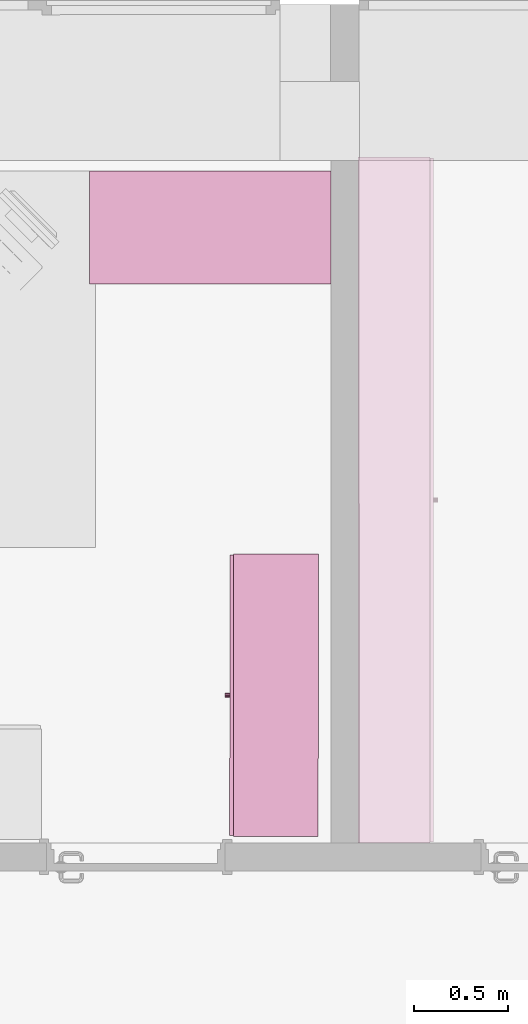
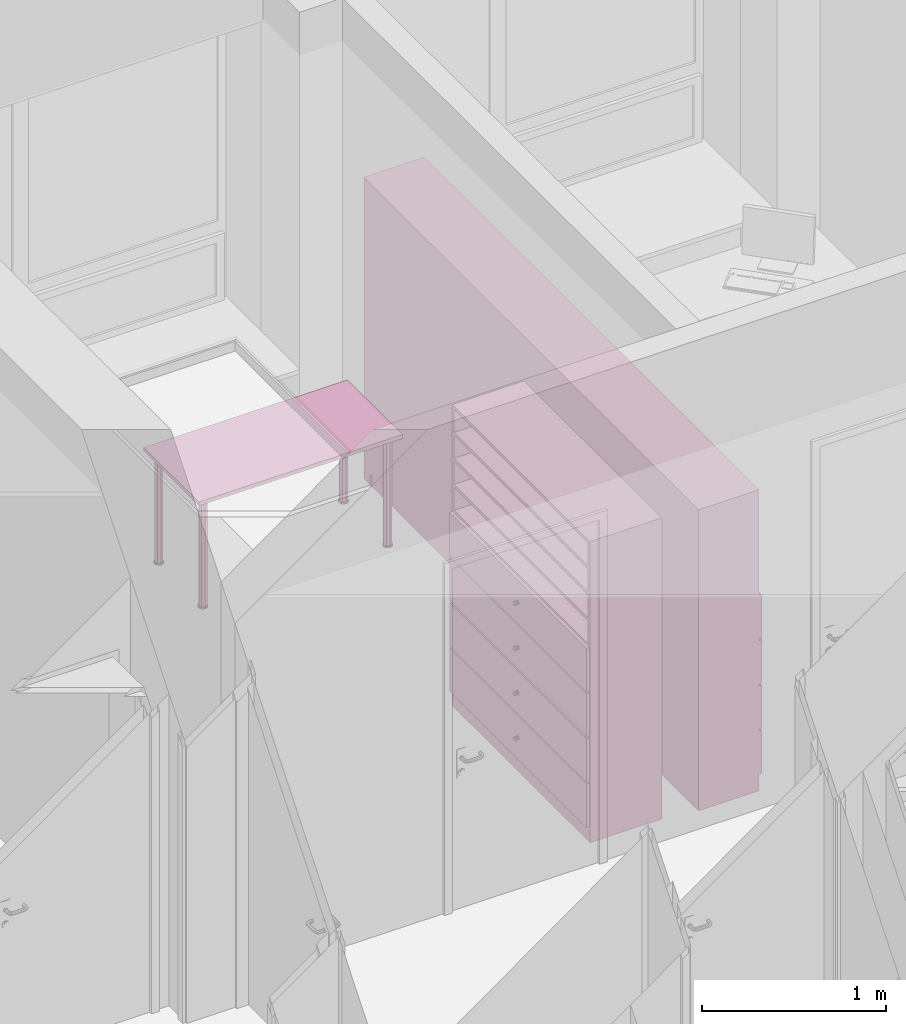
# One storey, part 180 of 194: 3 furnishings.
"""IFC2X3 building model written with IfcOpenShell, lengths in millimetres."""

from ifc_helpers import new_model, entity, si_unit, converted_unit, derived_unit, money_unit, direction, frame, origin_with_axes, place, context, subcontext, project, spatial, faceted_brep, type_object, element, save


model = new_model("IFC2X3")

# Units and contexts
model_context = context("Model", 3, precision=1e-05, world=origin_with_axes(), true_north=direction((0.0, 1.0)))
body_context = subcontext(model_context, "Body", "Model", "MODEL_VIEW")
ifc_project = project(units=[si_unit("LENGTHUNIT", "METRE", prefix="MILLI"), si_unit("AREAUNIT", "SQUARE_METRE"), si_unit("VOLUMEUNIT", "CUBIC_METRE"), converted_unit("PLANEANGLEUNIT", "DEGREE", entity("IfcPlaneAngleMeasure", 0.0174532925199), si_unit("PLANEANGLEUNIT", "RADIAN"), dimensions=[0, 0, 0, 0, 0, 0, 0]), si_unit("SOLIDANGLEUNIT", "STERADIAN"), money_unit("EUR"), converted_unit("TIMEUNIT", "Year", entity("IfcTimeMeasure", 31556926.0), si_unit("TIMEUNIT", "SECOND"), dimensions=[0, 0, 1, 0, 0, 0, 0]), si_unit("MASSUNIT", "GRAM", prefix="KILO"), si_unit("THERMODYNAMICTEMPERATUREUNIT", "DEGREE_CELSIUS"), si_unit("LUMINOUSINTENSITYUNIT", "LUMEN"), si_unit("ENERGYUNIT", "JOULE", prefix="MEGA"), derived_unit("THERMALCONDUCTANCEUNIT", [(si_unit("POWERUNIT", "WATT"), 1), (si_unit("LENGTHUNIT", "METRE"), -1), (si_unit("THERMODYNAMICTEMPERATUREUNIT", "KELVIN"), -1)]), derived_unit("SPECIFICHEATCAPACITYUNIT", [(si_unit("ENERGYUNIT", "JOULE"), 1), (si_unit("MASSUNIT", "GRAM", prefix="KILO"), -1), (si_unit("THERMODYNAMICTEMPERATUREUNIT", "KELVIN"), -1)]), derived_unit("MASSDENSITYUNIT", [(si_unit("MASSUNIT", "GRAM", prefix="KILO"), 1), (si_unit("VOLUMEUNIT", "CUBIC_METRE"), -1)])], contexts=[model_context])

# Site, building, storey
site_placement = place(None, origin_with_axes())
site = spatial("IfcSite", under=ifc_project, at=site_placement, Name="Site", CompositionType="ELEMENT")
building_placement = place(site_placement, origin_with_axes())
building = spatial("IfcBuilding", under=site, at=building_placement, Name="Building", CompositionType="ELEMENT")
storey_placement = place(building_placement, frame((0.0, 0.0, 3000.0), z_axis=(0.0, 0.0, 1.0), x_axis=(1.0, 0.0, 0.0)))
storey = spatial("IfcBuildingStorey", under=building, at=storey_placement, Name="2 KORRUS", CompositionType="ELEMENT", Elevation=3000.0)

# Furnishings
furnishing_element_type_1 = type_object("IfcFurnishingElementType", Name="Model Element 122")
furnishing_1_placement = place(storey_placement, frame((19555.0903065, 71106.4283284, 0.0), z_axis=(0.0, 0.0, 1.0), x_axis=(0.0, 1.0, 0.0)))
element("IfcFurnishingElement", 1, at=furnishing_1_placement, inside=storey, type_object=furnishing_element_type_1, Name="FU - 001", context=body_context, shape_type="Brep", body=[
    faceted_brep([(-3641.33468044, 19.0, 0.0), (-3641.33468044, 400.0, 0.0), (0.0, 400.0, 0.0), (0.0, 19.0, 0.0), (-3641.33468044, 19.0, 100.0), (-3641.33468044, 400.0, 100.0), (0.0, 400.0, 100.0), (0.0, 19.0, 100.0)], [[[0, 1, 2, 3]], [[0, 4, 5, 1]], [[1, 5, 6, 2]], [[2, 6, 7, 3]], [[3, 7, 4, 0]], [[7, 6, 5, 4]]]),
    faceted_brep([(-19.0, 400.0, 119.0), (-19.0, 400.0, 1981.0), (-19.0, 381.0, 1981.0), (-19.0, 381.0, 119.0), (-3622.33468044, 400.0, 119.0), (-3622.33468044, 400.0, 1981.0), (-3622.33468044, 381.0, 1981.0), (-3622.33468044, 381.0, 119.0)], [[[0, 1, 2, 3]], [[4, 5, 1, 0]], [[1, 5, 6, 2]], [[3, 2, 6, 7]], [[0, 3, 7, 4]], [[7, 6, 5, 4]]]),
    faceted_brep([(-3641.33468044, 19.0, 100.0), (-3641.33468044, 400.0, 100.0), (-3622.33468044, 400.0, 100.0), (-3622.33468044, 19.0, 100.0), (-3641.33468044, 19.0, 2000.0), (-3641.33468044, 400.0, 2000.0), (-3622.33468044, 400.0, 2000.0), (-3622.33468044, 19.0, 2000.0)], [[[0, 1, 2, 3]], [[0, 4, 5, 1]], [[1, 5, 6, 2]], [[2, 6, 7, 3]], [[3, 7, 4, 0]], [[7, 6, 5, 4]]]),
    faceted_brep([(-19.0, 19.0, 100.0), (-19.0, 400.0, 100.0), (0.0, 400.0, 100.0), (0.0, 19.0, 100.0), (-19.0, 19.0, 2000.0), (-19.0, 400.0, 2000.0), (0.0, 400.0, 2000.0), (0.0, 19.0, 2000.0)], [[[0, 1, 2, 3]], [[0, 4, 5, 1]], [[1, 5, 6, 2]], [[2, 6, 7, 3]], [[3, 7, 4, 0]], [[7, 6, 5, 4]]]),
    faceted_brep([(-3622.33468044, 19.0, 100.0), (-3622.33468044, 400.0, 100.0), (-19.0, 400.0, 100.0), (-19.0, 19.0, 100.0), (-3622.33468044, 19.0, 119.0), (-3622.33468044, 400.0, 119.0), (-19.0, 400.0, 119.0), (-19.0, 19.0, 119.0)], [[[0, 1, 2, 3]], [[0, 4, 5, 1]], [[1, 5, 6, 2]], [[2, 6, 7, 3]], [[3, 7, 4, 0]], [[7, 6, 5, 4]]]),
    faceted_brep([(-3622.33468044, 19.0, 1981.0), (-3622.33468044, 400.0, 1981.0), (-19.0, 400.0, 1981.0), (-19.0, 19.0, 1981.0), (-3622.33468044, 19.0, 2000.0), (-3622.33468044, 400.0, 2000.0), (-19.0, 400.0, 2000.0), (-19.0, 19.0, 2000.0)], [[[0, 1, 2, 3]], [[0, 4, 5, 1]], [[1, 5, 6, 2]], [[2, 6, 7, 3]], [[3, 7, 4, 0]], [[7, 6, 5, 4]]]),
    faceted_brep([(-5.0, 19.0, 105.0), (-5.0, 0.0, 105.0), (-3636.33468044, 0.0, 105.0), (-3636.33468044, 19.0, 105.0), (-5.0, 19.0, 395.0), (-5.0, 0.0, 395.0), (-3636.33468044, 0.0, 395.0), (-3636.33468044, 19.0, 395.0)], [[[0, 1, 2, 3]], [[4, 5, 1, 0]], [[1, 5, 6, 2]], [[3, 2, 6, 7]], [[0, 3, 7, 4]], [[7, 6, 5, 4]]]),
    faceted_brep([(-1831.05964506, 0.0, 244.0), (-1832.66734022, 0.0, 250.0), (-1831.05964506, 0.0, 256.0), (-1826.66734022, 0.0, 260.392304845), (-1820.66734022, 0.0, 262.0), (-1814.66734022, 0.0, 260.392304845), (-1810.27503537, 0.0, 256.0), (-1808.66734022, 0.0, 250.0), (-1810.27503537, 0.0, 244.0), (-1814.66734022, 0.0, 239.607695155), (-1820.66734022, 0.0, 238.0), (-1826.66734022, 0.0, 239.607695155), (-1831.05964506, -25.0, 244.0), (-1832.66734022, -25.0, 250.0), (-1831.05964506, -25.0, 256.0), (-1826.66734022, -25.0, 260.392304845), (-1820.66734022, -25.0, 262.0), (-1814.66734022, -25.0, 260.392304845), (-1810.27503537, -25.0, 256.0), (-1808.66734022, -25.0, 250.0), (-1810.27503537, -25.0, 244.0), (-1814.66734022, -25.0, 239.607695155), (-1820.66734022, -25.0, 238.0), (-1826.66734022, -25.0, 239.607695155)], [[[0, 1, 2, 3, 4, 5, 6, 7, 8, 9, 10, 11]], [[0, 12, 13, 1]], [[1, 13, 14, 2]], [[2, 14, 15, 3]], [[3, 15, 16, 4]], [[4, 16, 17, 5]], [[5, 17, 18, 6]], [[6, 18, 19, 7]], [[7, 19, 20, 8]], [[8, 20, 21, 9]], [[9, 21, 22, 10]], [[10, 22, 23, 11]], [[11, 23, 12, 0]], [[12, 23, 22, 21, 20, 19, 18, 17, 16, 15, 14, 13]]]),
    faceted_brep([(-5.0, 19.0, 405.0), (-5.0, 0.0, 405.0), (-3636.33468044, 0.0, 405.0), (-3636.33468044, 19.0, 405.0), (-5.0, 19.0, 695.0), (-5.0, 0.0, 695.0), (-3636.33468044, 0.0, 695.0), (-3636.33468044, 19.0, 695.0)], [[[0, 1, 2, 3]], [[4, 5, 1, 0]], [[1, 5, 6, 2]], [[3, 2, 6, 7]], [[0, 3, 7, 4]], [[7, 6, 5, 4]]]),
    faceted_brep([(-1831.05964506, 0.0, 544.0), (-1832.66734022, 0.0, 550.0), (-1831.05964506, 0.0, 556.0), (-1826.66734022, 0.0, 560.392304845), (-1820.66734022, 0.0, 562.0), (-1814.66734022, 0.0, 560.392304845), (-1810.27503537, 0.0, 556.0), (-1808.66734022, 0.0, 550.0), (-1810.27503537, 0.0, 544.0), (-1814.66734022, 0.0, 539.607695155), (-1820.66734022, 0.0, 538.0), (-1826.66734022, 0.0, 539.607695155), (-1831.05964506, -25.0, 544.0), (-1832.66734022, -25.0, 550.0), (-1831.05964506, -25.0, 556.0), (-1826.66734022, -25.0, 560.392304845), (-1820.66734022, -25.0, 562.0), (-1814.66734022, -25.0, 560.392304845), (-1810.27503537, -25.0, 556.0), (-1808.66734022, -25.0, 550.0), (-1810.27503537, -25.0, 544.0), (-1814.66734022, -25.0, 539.607695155), (-1820.66734022, -25.0, 538.0), (-1826.66734022, -25.0, 539.607695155)], [[[0, 1, 2, 3, 4, 5, 6, 7, 8, 9, 10, 11]], [[0, 12, 13, 1]], [[1, 13, 14, 2]], [[2, 14, 15, 3]], [[3, 15, 16, 4]], [[4, 16, 17, 5]], [[5, 17, 18, 6]], [[6, 18, 19, 7]], [[7, 19, 20, 8]], [[8, 20, 21, 9]], [[9, 21, 22, 10]], [[10, 22, 23, 11]], [[11, 23, 12, 0]], [[12, 23, 22, 21, 20, 19, 18, 17, 16, 15, 14, 13]]]),
    faceted_brep([(-5.0, 19.0, 705.0), (-5.0, 0.0, 705.0), (-3636.33468044, 0.0, 705.0), (-3636.33468044, 19.0, 705.0), (-5.0, 19.0, 995.0), (-5.0, 0.0, 995.0), (-3636.33468044, 0.0, 995.0), (-3636.33468044, 19.0, 995.0)], [[[0, 1, 2, 3]], [[4, 5, 1, 0]], [[1, 5, 6, 2]], [[3, 2, 6, 7]], [[0, 3, 7, 4]], [[7, 6, 5, 4]]]),
    faceted_brep([(-1831.05964506, 0.0, 844.0), (-1832.66734022, 0.0, 850.0), (-1831.05964506, 0.0, 856.0), (-1826.66734022, 0.0, 860.392304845), (-1820.66734022, 0.0, 862.0), (-1814.66734022, 0.0, 860.392304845), (-1810.27503537, 0.0, 856.0), (-1808.66734022, 0.0, 850.0), (-1810.27503537, 0.0, 844.0), (-1814.66734022, 0.0, 839.607695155), (-1820.66734022, 0.0, 838.0), (-1826.66734022, 0.0, 839.607695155), (-1831.05964506, -25.0, 844.0), (-1832.66734022, -25.0, 850.0), (-1831.05964506, -25.0, 856.0), (-1826.66734022, -25.0, 860.392304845), (-1820.66734022, -25.0, 862.0), (-1814.66734022, -25.0, 860.392304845), (-1810.27503537, -25.0, 856.0), (-1808.66734022, -25.0, 850.0), (-1810.27503537, -25.0, 844.0), (-1814.66734022, -25.0, 839.607695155), (-1820.66734022, -25.0, 838.0), (-1826.66734022, -25.0, 839.607695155)], [[[0, 1, 2, 3, 4, 5, 6, 7, 8, 9, 10, 11]], [[0, 12, 13, 1]], [[1, 13, 14, 2]], [[2, 14, 15, 3]], [[3, 15, 16, 4]], [[4, 16, 17, 5]], [[5, 17, 18, 6]], [[6, 18, 19, 7]], [[7, 19, 20, 8]], [[8, 20, 21, 9]], [[9, 21, 22, 10]], [[10, 22, 23, 11]], [[11, 23, 12, 0]], [[12, 23, 22, 21, 20, 19, 18, 17, 16, 15, 14, 13]]]),
    faceted_brep([(-5.0, 19.0, 1005.0), (-5.0, 0.0, 1005.0), (-3636.33468044, 0.0, 1005.0), (-3636.33468044, 19.0, 1005.0), (-5.0, 19.0, 1295.0), (-5.0, 0.0, 1295.0), (-3636.33468044, 0.0, 1295.0), (-3636.33468044, 19.0, 1295.0)], [[[0, 1, 2, 3]], [[4, 5, 1, 0]], [[1, 5, 6, 2]], [[3, 2, 6, 7]], [[0, 3, 7, 4]], [[7, 6, 5, 4]]]),
    faceted_brep([(-1831.05964506, 0.0, 1144.0), (-1832.66734022, 0.0, 1150.0), (-1831.05964506, 0.0, 1156.0), (-1826.66734022, 0.0, 1160.39230485), (-1820.66734022, 0.0, 1162.0), (-1814.66734022, 0.0, 1160.39230485), (-1810.27503537, 0.0, 1156.0), (-1808.66734022, 0.0, 1150.0), (-1810.27503537, 0.0, 1144.0), (-1814.66734022, 0.0, 1139.60769515), (-1820.66734022, 0.0, 1138.0), (-1826.66734022, 0.0, 1139.60769515), (-1831.05964506, -25.0, 1144.0), (-1832.66734022, -25.0, 1150.0), (-1831.05964506, -25.0, 1156.0), (-1826.66734022, -25.0, 1160.39230485), (-1820.66734022, -25.0, 1162.0), (-1814.66734022, -25.0, 1160.39230485), (-1810.27503537, -25.0, 1156.0), (-1808.66734022, -25.0, 1150.0), (-1810.27503537, -25.0, 1144.0), (-1814.66734022, -25.0, 1139.60769515), (-1820.66734022, -25.0, 1138.0), (-1826.66734022, -25.0, 1139.60769515)], [[[0, 1, 2, 3, 4, 5, 6, 7, 8, 9, 10, 11]], [[0, 12, 13, 1]], [[1, 13, 14, 2]], [[2, 14, 15, 3]], [[3, 15, 16, 4]], [[4, 16, 17, 5]], [[5, 17, 18, 6]], [[6, 18, 19, 7]], [[7, 19, 20, 8]], [[8, 20, 21, 9]], [[9, 21, 22, 10]], [[10, 22, 23, 11]], [[11, 23, 12, 0]], [[12, 23, 22, 21, 20, 19, 18, 17, 16, 15, 14, 13]]]),
    faceted_brep([(-19.0, 19.0, 390.5), (-19.0, 19.0, 409.5), (-3622.33468044, 19.0, 409.5), (-3622.33468044, 19.0, 390.5), (-19.0, 381.0, 390.5), (-19.0, 381.0, 409.5), (-3622.33468044, 381.0, 409.5), (-3622.33468044, 381.0, 390.5)], [[[0, 1, 2, 3]], [[4, 5, 1, 0]], [[1, 5, 6, 2]], [[3, 2, 6, 7]], [[0, 3, 7, 4]], [[7, 6, 5, 4]]]),
    faceted_brep([(-19.0, 19.0, 690.5), (-19.0, 19.0, 709.5), (-3622.33468044, 19.0, 709.5), (-3622.33468044, 19.0, 690.5), (-19.0, 381.0, 690.5), (-19.0, 381.0, 709.5), (-3622.33468044, 381.0, 709.5), (-3622.33468044, 381.0, 690.5)], [[[0, 1, 2, 3]], [[4, 5, 1, 0]], [[1, 5, 6, 2]], [[3, 2, 6, 7]], [[0, 3, 7, 4]], [[7, 6, 5, 4]]]),
    faceted_brep([(-19.0, 19.0, 990.5), (-19.0, 19.0, 1009.5), (-3622.33468044, 19.0, 1009.5), (-3622.33468044, 19.0, 990.5), (-19.0, 381.0, 990.5), (-19.0, 381.0, 1009.5), (-3622.33468044, 381.0, 1009.5), (-3622.33468044, 381.0, 990.5)], [[[0, 1, 2, 3]], [[4, 5, 1, 0]], [[1, 5, 6, 2]], [[3, 2, 6, 7]], [[0, 3, 7, 4]], [[7, 6, 5, 4]]]),
    faceted_brep([(-19.0, 19.0, 1290.5), (-19.0, 19.0, 1309.5), (-3622.33468044, 19.0, 1309.5), (-3622.33468044, 19.0, 1290.5), (-19.0, 381.0, 1290.5), (-19.0, 381.0, 1309.5), (-3622.33468044, 381.0, 1309.5), (-3622.33468044, 381.0, 1290.5)], [[[0, 1, 2, 3]], [[4, 5, 1, 0]], [[1, 5, 6, 2]], [[3, 2, 6, 7]], [[0, 3, 7, 4]], [[7, 6, 5, 4]]]),
    faceted_brep([(-3622.33468044, 19.0, 1463.125), (-3622.33468044, 381.0, 1463.125), (-19.0, 381.0, 1463.125), (-19.0, 19.0, 1463.125), (-3622.33468044, 19.0, 1482.125), (-3622.33468044, 381.0, 1482.125), (-19.0, 381.0, 1482.125), (-19.0, 19.0, 1482.125)], [[[0, 1, 2, 3]], [[0, 4, 5, 1]], [[1, 5, 6, 2]], [[2, 6, 7, 3]], [[3, 7, 4, 0]], [[7, 6, 5, 4]]]),
    faceted_brep([(-3622.33468044, 19.0, 1635.75), (-3622.33468044, 381.0, 1635.75), (-19.0, 381.0, 1635.75), (-19.0, 19.0, 1635.75), (-3622.33468044, 19.0, 1654.75), (-3622.33468044, 381.0, 1654.75), (-19.0, 381.0, 1654.75), (-19.0, 19.0, 1654.75)], [[[0, 1, 2, 3]], [[0, 4, 5, 1]], [[1, 5, 6, 2]], [[2, 6, 7, 3]], [[3, 7, 4, 0]], [[7, 6, 5, 4]]]),
    faceted_brep([(-3622.33468044, 19.0, 1808.375), (-3622.33468044, 381.0, 1808.375), (-19.0, 381.0, 1808.375), (-19.0, 19.0, 1808.375), (-3622.33468044, 19.0, 1827.375), (-3622.33468044, 381.0, 1827.375), (-19.0, 381.0, 1827.375), (-19.0, 19.0, 1827.375)], [[[0, 1, 2, 3]], [[0, 4, 5, 1]], [[1, 5, 6, 2]], [[2, 6, 7, 3]], [[3, 7, 4, 0]], [[7, 6, 5, 4]]]),
])
furnishing_element_type_2 = type_object("IfcFurnishingElementType", Name="Model Element 101")
furnishing_2_placement = place(storey_placement, frame((17730.1264672, 70433.1861527, 0.0), z_axis=(0.0, 0.0, 1.0), x_axis=(1.0, 0.0, 0.0)))
element("IfcFurnishingElement", 2, at=furnishing_2_placement, inside=storey, type_object=furnishing_element_type_2, Name="FU - 007", context=body_context, shape_type="Brep", body=[
    faceted_brep([(0.0, 0.0, 725.0), (1280.43458076, 0.0, 725.0), (1280.43458076, 0.0, 750.0), (0.0, 0.0, 750.0), (0.0, 600.0, 725.0), (1280.43458076, 600.0, 725.0), (1280.43458076, 600.0, 750.0), (0.0, 600.0, 750.0)], [[[0, 1, 2, 3]], [[0, 4, 5, 1]], [[1, 5, 6, 2]], [[3, 2, 6, 7]], [[4, 0, 3, 7]], [[5, 4, 7, 6]]]),
    faceted_brep([(77.6776695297, 77.6776695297, 10.0), (85.0, 60.0, 10.0), (77.6776695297, 42.3223304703, 10.0), (60.0, 35.0, 10.0), (42.3223304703, 42.3223304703, 10.0), (35.0, 60.0, 10.0), (42.3223304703, 77.6776695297, 10.0), (60.0, 85.0, 10.0), (77.6776695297, 77.6776695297, 725.0), (85.0, 60.0, 725.0), (77.6776695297, 42.3223304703, 725.0), (60.0, 35.0, 725.0), (42.3223304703, 42.3223304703, 725.0), (35.0, 60.0, 725.0), (42.3223304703, 77.6776695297, 725.0), (60.0, 85.0, 725.0)], [[[0, 1, 2, 3, 4, 5, 6, 7]], [[1, 0, 8, 9]], [[2, 1, 9, 10]], [[3, 2, 10, 11]], [[4, 3, 11, 12]], [[5, 4, 12, 13]], [[6, 5, 13, 14]], [[7, 6, 14, 15]], [[0, 7, 15, 8]], [[8, 15, 14, 13, 12, 11, 10, 9]]]),
    faceted_brep([(81.2132034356, 81.2132034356, 0.0), (90.0, 60.0, 0.0), (81.2132034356, 38.7867965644, 0.0), (60.0, 30.0, 0.0), (38.7867965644, 38.7867965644, 0.0), (30.0, 60.0, 0.0), (38.7867965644, 81.2132034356, 0.0), (60.0, 90.0, 0.0), (81.2132034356, 81.2132034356, 10.0), (90.0, 60.0, 10.0), (81.2132034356, 38.7867965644, 10.0), (60.0, 30.0, 10.0), (38.7867965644, 38.7867965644, 10.0), (30.0, 60.0, 10.0), (38.7867965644, 81.2132034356, 10.0), (60.0, 90.0, 10.0)], [[[0, 1, 2, 3, 4, 5, 6, 7]], [[1, 0, 8, 9]], [[2, 1, 9, 10]], [[3, 2, 10, 11]], [[4, 3, 11, 12]], [[5, 4, 12, 13]], [[6, 5, 13, 14]], [[7, 6, 14, 15]], [[0, 7, 15, 8]], [[8, 15, 14, 13, 12, 11, 10, 9]]]),
    faceted_brep([(77.6776695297, 557.67766953, 10.0), (85.0, 540.0, 10.0), (77.6776695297, 522.32233047, 10.0), (60.0, 515.0, 10.0), (42.3223304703, 522.32233047, 10.0), (35.0, 540.0, 10.0), (42.3223304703, 557.67766953, 10.0), (60.0, 565.0, 10.0), (77.6776695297, 557.67766953, 725.0), (85.0, 540.0, 725.0), (77.6776695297, 522.32233047, 725.0), (60.0, 515.0, 725.0), (42.3223304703, 522.32233047, 725.0), (35.0, 540.0, 725.0), (42.3223304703, 557.67766953, 725.0), (60.0, 565.0, 725.0)], [[[0, 1, 2, 3, 4, 5, 6, 7]], [[1, 0, 8, 9]], [[2, 1, 9, 10]], [[3, 2, 10, 11]], [[4, 3, 11, 12]], [[5, 4, 12, 13]], [[6, 5, 13, 14]], [[7, 6, 14, 15]], [[0, 7, 15, 8]], [[8, 15, 14, 13, 12, 11, 10, 9]]]),
    faceted_brep([(81.2132034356, 561.213203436, 0.0), (90.0, 540.0, 0.0), (81.2132034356, 518.786796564, 0.0), (60.0, 510.0, 0.0), (38.7867965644, 518.786796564, 0.0), (30.0, 540.0, 0.0), (38.7867965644, 561.213203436, 0.0), (60.0, 570.0, 0.0), (81.2132034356, 561.213203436, 10.0), (90.0, 540.0, 10.0), (81.2132034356, 518.786796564, 10.0), (60.0, 510.0, 10.0), (38.7867965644, 518.786796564, 10.0), (30.0, 540.0, 10.0), (38.7867965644, 561.213203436, 10.0), (60.0, 570.0, 10.0)], [[[0, 1, 2, 3, 4, 5, 6, 7]], [[1, 0, 8, 9]], [[2, 1, 9, 10]], [[3, 2, 10, 11]], [[4, 3, 11, 12]], [[5, 4, 12, 13]], [[6, 5, 13, 14]], [[7, 6, 14, 15]], [[0, 7, 15, 8]], [[8, 15, 14, 13, 12, 11, 10, 9]]]),
    faceted_brep([(1238.11225029, 77.6776695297, 10.0), (1245.43458076, 60.0, 10.0), (1238.11225029, 42.3223304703, 10.0), (1220.43458076, 35.0, 10.0), (1202.75691123, 42.3223304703, 10.0), (1195.43458076, 60.0, 10.0), (1202.75691123, 77.6776695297, 10.0), (1220.43458076, 85.0, 10.0), (1238.11225029, 77.6776695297, 725.0), (1245.43458076, 60.0, 725.0), (1238.11225029, 42.3223304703, 725.0), (1220.43458076, 35.0, 725.0), (1202.75691123, 42.3223304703, 725.0), (1195.43458076, 60.0, 725.0), (1202.75691123, 77.6776695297, 725.0), (1220.43458076, 85.0, 725.0)], [[[0, 1, 2, 3, 4, 5, 6, 7]], [[1, 0, 8, 9]], [[2, 1, 9, 10]], [[3, 2, 10, 11]], [[4, 3, 11, 12]], [[5, 4, 12, 13]], [[6, 5, 13, 14]], [[7, 6, 14, 15]], [[0, 7, 15, 8]], [[8, 15, 14, 13, 12, 11, 10, 9]]]),
    faceted_brep([(1241.6477842, 81.2132034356, 0.0), (1250.43458076, 60.0, 0.0), (1241.6477842, 38.7867965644, 0.0), (1220.43458076, 30.0, 0.0), (1199.22137733, 38.7867965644, 0.0), (1190.43458076, 60.0, 0.0), (1199.22137733, 81.2132034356, 0.0), (1220.43458076, 90.0, 0.0), (1241.6477842, 81.2132034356, 10.0), (1250.43458076, 60.0, 10.0), (1241.6477842, 38.7867965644, 10.0), (1220.43458076, 30.0, 10.0), (1199.22137733, 38.7867965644, 10.0), (1190.43458076, 60.0, 10.0), (1199.22137733, 81.2132034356, 10.0), (1220.43458076, 90.0, 10.0)], [[[0, 1, 2, 3, 4, 5, 6, 7]], [[1, 0, 8, 9]], [[2, 1, 9, 10]], [[3, 2, 10, 11]], [[4, 3, 11, 12]], [[5, 4, 12, 13]], [[6, 5, 13, 14]], [[7, 6, 14, 15]], [[0, 7, 15, 8]], [[8, 15, 14, 13, 12, 11, 10, 9]]]),
    faceted_brep([(1238.11225029, 557.67766953, 10.0), (1245.43458076, 540.0, 10.0), (1238.11225029, 522.32233047, 10.0), (1220.43458076, 515.0, 10.0), (1202.75691123, 522.32233047, 10.0), (1195.43458076, 540.0, 10.0), (1202.75691123, 557.67766953, 10.0), (1220.43458076, 565.0, 10.0), (1238.11225029, 557.67766953, 725.0), (1245.43458076, 540.0, 725.0), (1238.11225029, 522.32233047, 725.0), (1220.43458076, 515.0, 725.0), (1202.75691123, 522.32233047, 725.0), (1195.43458076, 540.0, 725.0), (1202.75691123, 557.67766953, 725.0), (1220.43458076, 565.0, 725.0)], [[[0, 1, 2, 3, 4, 5, 6, 7]], [[1, 0, 8, 9]], [[2, 1, 9, 10]], [[3, 2, 10, 11]], [[4, 3, 11, 12]], [[5, 4, 12, 13]], [[6, 5, 13, 14]], [[7, 6, 14, 15]], [[0, 7, 15, 8]], [[8, 15, 14, 13, 12, 11, 10, 9]]]),
    faceted_brep([(1241.6477842, 561.213203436, 0.0), (1250.43458076, 540.0, 0.0), (1241.6477842, 518.786796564, 0.0), (1220.43458076, 510.0, 0.0), (1199.22137733, 518.786796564, 0.0), (1190.43458076, 540.0, 0.0), (1199.22137733, 561.213203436, 0.0), (1220.43458076, 570.0, 0.0), (1241.6477842, 561.213203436, 10.0), (1250.43458076, 540.0, 10.0), (1241.6477842, 518.786796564, 10.0), (1220.43458076, 510.0, 10.0), (1199.22137733, 518.786796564, 10.0), (1190.43458076, 540.0, 10.0), (1199.22137733, 561.213203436, 10.0), (1220.43458076, 570.0, 10.0)], [[[0, 1, 2, 3, 4, 5, 6, 7]], [[1, 0, 8, 9]], [[2, 1, 9, 10]], [[3, 2, 10, 11]], [[4, 3, 11, 12]], [[5, 4, 12, 13]], [[6, 5, 13, 14]], [[7, 6, 14, 15]], [[0, 7, 15, 8]], [[8, 15, 14, 13, 12, 11, 10, 9]]]),
])
furnishing_element_type_3 = type_object("IfcFurnishingElementType", Name="Model Element 99")
furnishing_3_placement = place(storey_placement, frame((18474.6614613, 68998.8541403, 0.0), z_axis=(0.0, 0.0, 1.0), x_axis=(-0.00064265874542, -0.999999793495, 0.0)))
element("IfcFurnishingElement", 3, at=furnishing_3_placement, inside=storey, type_object=furnishing_element_type_3, Name="FU - 001", context=body_context, shape_type="Brep", body=[
    faceted_brep([(1500.0, 19.0, 0.0), (0.0, 19.0, 0.0), (0.0, 469.960200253, 0.0), (1500.0, 469.960200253, 0.0), (1500.0, 19.0, 100.0), (0.0, 19.0, 100.0), (0.0, 469.960200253, 100.0), (1500.0, 469.960200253, 100.0)], [[[0, 1, 2, 3]], [[1, 0, 4, 5]], [[2, 1, 5, 6]], [[3, 2, 6, 7]], [[0, 3, 7, 4]], [[5, 4, 7, 6]]]),
    faceted_brep([(19.0, 469.960200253, 119.0), (19.0, 450.960200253, 119.0), (19.0, 450.960200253, 1981.0), (19.0, 469.960200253, 1981.0), (1481.0, 469.960200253, 119.0), (1481.0, 450.960200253, 119.0), (1481.0, 450.960200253, 1981.0), (1481.0, 469.960200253, 1981.0)], [[[0, 1, 2, 3]], [[0, 4, 5, 1]], [[1, 5, 6, 2]], [[3, 2, 6, 7]], [[4, 0, 3, 7]], [[5, 4, 7, 6]]]),
    faceted_brep([(1500.0, 19.0, 100.0), (1481.0, 19.0, 100.0), (1481.0, 469.960200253, 100.0), (1500.0, 469.960200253, 100.0), (1500.0, 19.0, 2000.0), (1481.0, 19.0, 2000.0), (1481.0, 469.960200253, 2000.0), (1500.0, 469.960200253, 2000.0)], [[[0, 1, 2, 3]], [[1, 0, 4, 5]], [[2, 1, 5, 6]], [[3, 2, 6, 7]], [[0, 3, 7, 4]], [[5, 4, 7, 6]]]),
    faceted_brep([(19.0, 19.0, 100.0), (0.0, 19.0, 100.0), (0.0, 469.960200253, 100.0), (19.0, 469.960200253, 100.0), (19.0, 19.0, 2000.0), (0.0, 19.0, 2000.0), (0.0, 469.960200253, 2000.0), (19.0, 469.960200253, 2000.0)], [[[0, 1, 2, 3]], [[1, 0, 4, 5]], [[2, 1, 5, 6]], [[3, 2, 6, 7]], [[0, 3, 7, 4]], [[5, 4, 7, 6]]]),
    faceted_brep([(1481.0, 19.0, 100.0), (19.0, 19.0, 100.0), (19.0, 469.960200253, 100.0), (1481.0, 469.960200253, 100.0), (1481.0, 19.0, 119.0), (19.0, 19.0, 119.0), (19.0, 469.960200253, 119.0), (1481.0, 469.960200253, 119.0)], [[[0, 1, 2, 3]], [[1, 0, 4, 5]], [[2, 1, 5, 6]], [[3, 2, 6, 7]], [[0, 3, 7, 4]], [[5, 4, 7, 6]]]),
    faceted_brep([(1481.0, 19.0, 1981.0), (19.0, 19.0, 1981.0), (19.0, 469.960200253, 1981.0), (1481.0, 469.960200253, 1981.0), (1481.0, 19.0, 2000.0), (19.0, 19.0, 2000.0), (19.0, 469.960200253, 2000.0), (1481.0, 469.960200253, 2000.0)], [[[0, 1, 2, 3]], [[1, 0, 4, 5]], [[2, 1, 5, 6]], [[3, 2, 6, 7]], [[0, 3, 7, 4]], [[5, 4, 7, 6]]]),
    faceted_brep([(5.0, 19.0, 105.0), (1495.0, 19.0, 105.0), (1495.0, 0.0, 105.0), (5.0, 0.0, 105.0), (5.0, 19.0, 395.0), (1495.0, 19.0, 395.0), (1495.0, 0.0, 395.0), (5.0, 0.0, 395.0)], [[[0, 1, 2, 3]], [[0, 4, 5, 1]], [[1, 5, 6, 2]], [[3, 2, 6, 7]], [[4, 0, 3, 7]], [[5, 4, 7, 6]]]),
    faceted_brep([(760.392304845, 0.0, 244.0), (756.0, 0.0, 239.607695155), (750.0, 0.0, 238.0), (744.0, 0.0, 239.607695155), (739.607695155, 0.0, 244.0), (738.0, 0.0, 250.0), (739.607695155, 0.0, 256.0), (744.0, 0.0, 260.392304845), (750.0, 0.0, 262.0), (756.0, 0.0, 260.392304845), (760.392304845, 0.0, 256.0), (762.0, 0.0, 250.0), (760.392304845, -25.0, 244.0), (756.0, -25.0, 239.607695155), (750.0, -25.0, 238.0), (744.0, -25.0, 239.607695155), (739.607695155, -25.0, 244.0), (738.0, -25.0, 250.0), (739.607695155, -25.0, 256.0), (744.0, -25.0, 260.392304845), (750.0, -25.0, 262.0), (756.0, -25.0, 260.392304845), (760.392304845, -25.0, 256.0), (762.0, -25.0, 250.0)], [[[0, 1, 2, 3, 4, 5, 6, 7, 8, 9, 10, 11]], [[1, 0, 12, 13]], [[2, 1, 13, 14]], [[3, 2, 14, 15]], [[4, 3, 15, 16]], [[5, 4, 16, 17]], [[6, 5, 17, 18]], [[7, 6, 18, 19]], [[8, 7, 19, 20]], [[9, 8, 20, 21]], [[10, 9, 21, 22]], [[11, 10, 22, 23]], [[0, 11, 23, 12]], [[12, 23, 22, 21, 20, 19, 18, 17, 16, 15, 14, 13]]]),
    faceted_brep([(5.0, 19.0, 405.0), (1495.0, 19.0, 405.0), (1495.0, 0.0, 405.0), (5.0, 0.0, 405.0), (5.0, 19.0, 695.0), (1495.0, 19.0, 695.0), (1495.0, 0.0, 695.0), (5.0, 0.0, 695.0)], [[[0, 1, 2, 3]], [[0, 4, 5, 1]], [[1, 5, 6, 2]], [[3, 2, 6, 7]], [[4, 0, 3, 7]], [[5, 4, 7, 6]]]),
    faceted_brep([(760.392304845, 0.0, 544.0), (756.0, 0.0, 539.607695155), (750.0, 0.0, 538.0), (744.0, 0.0, 539.607695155), (739.607695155, 0.0, 544.0), (738.0, 0.0, 550.0), (739.607695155, 0.0, 556.0), (744.0, 0.0, 560.392304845), (750.0, 0.0, 562.0), (756.0, 0.0, 560.392304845), (760.392304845, 0.0, 556.0), (762.0, 0.0, 550.0), (760.392304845, -25.0, 544.0), (756.0, -25.0, 539.607695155), (750.0, -25.0, 538.0), (744.0, -25.0, 539.607695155), (739.607695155, -25.0, 544.0), (738.0, -25.0, 550.0), (739.607695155, -25.0, 556.0), (744.0, -25.0, 560.392304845), (750.0, -25.0, 562.0), (756.0, -25.0, 560.392304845), (760.392304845, -25.0, 556.0), (762.0, -25.0, 550.0)], [[[0, 1, 2, 3, 4, 5, 6, 7, 8, 9, 10, 11]], [[1, 0, 12, 13]], [[2, 1, 13, 14]], [[3, 2, 14, 15]], [[4, 3, 15, 16]], [[5, 4, 16, 17]], [[6, 5, 17, 18]], [[7, 6, 18, 19]], [[8, 7, 19, 20]], [[9, 8, 20, 21]], [[10, 9, 21, 22]], [[11, 10, 22, 23]], [[0, 11, 23, 12]], [[12, 23, 22, 21, 20, 19, 18, 17, 16, 15, 14, 13]]]),
    faceted_brep([(5.0, 19.0, 705.0), (1495.0, 19.0, 705.0), (1495.0, 0.0, 705.0), (5.0, 0.0, 705.0), (5.0, 19.0, 995.0), (1495.0, 19.0, 995.0), (1495.0, 0.0, 995.0), (5.0, 0.0, 995.0)], [[[0, 1, 2, 3]], [[0, 4, 5, 1]], [[1, 5, 6, 2]], [[3, 2, 6, 7]], [[4, 0, 3, 7]], [[5, 4, 7, 6]]]),
    faceted_brep([(760.392304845, 0.0, 844.0), (756.0, 0.0, 839.607695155), (750.0, 0.0, 838.0), (744.0, 0.0, 839.607695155), (739.607695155, 0.0, 844.0), (738.0, 0.0, 850.0), (739.607695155, 0.0, 856.0), (744.0, 0.0, 860.392304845), (750.0, 0.0, 862.0), (756.0, 0.0, 860.392304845), (760.392304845, 0.0, 856.0), (762.0, 0.0, 850.0), (760.392304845, -25.0, 844.0), (756.0, -25.0, 839.607695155), (750.0, -25.0, 838.0), (744.0, -25.0, 839.607695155), (739.607695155, -25.0, 844.0), (738.0, -25.0, 850.0), (739.607695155, -25.0, 856.0), (744.0, -25.0, 860.392304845), (750.0, -25.0, 862.0), (756.0, -25.0, 860.392304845), (760.392304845, -25.0, 856.0), (762.0, -25.0, 850.0)], [[[0, 1, 2, 3, 4, 5, 6, 7, 8, 9, 10, 11]], [[1, 0, 12, 13]], [[2, 1, 13, 14]], [[3, 2, 14, 15]], [[4, 3, 15, 16]], [[5, 4, 16, 17]], [[6, 5, 17, 18]], [[7, 6, 18, 19]], [[8, 7, 19, 20]], [[9, 8, 20, 21]], [[10, 9, 21, 22]], [[11, 10, 22, 23]], [[0, 11, 23, 12]], [[12, 23, 22, 21, 20, 19, 18, 17, 16, 15, 14, 13]]]),
    faceted_brep([(5.0, 19.0, 1005.0), (1495.0, 19.0, 1005.0), (1495.0, 0.0, 1005.0), (5.0, 0.0, 1005.0), (5.0, 19.0, 1295.0), (1495.0, 19.0, 1295.0), (1495.0, 0.0, 1295.0), (5.0, 0.0, 1295.0)], [[[0, 1, 2, 3]], [[0, 4, 5, 1]], [[1, 5, 6, 2]], [[3, 2, 6, 7]], [[4, 0, 3, 7]], [[5, 4, 7, 6]]]),
    faceted_brep([(760.392304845, 0.0, 1144.0), (756.0, 0.0, 1139.60769515), (750.0, 0.0, 1138.0), (744.0, 0.0, 1139.60769515), (739.607695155, 0.0, 1144.0), (738.0, 0.0, 1150.0), (739.607695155, 0.0, 1156.0), (744.0, 0.0, 1160.39230485), (750.0, 0.0, 1162.0), (756.0, 0.0, 1160.39230485), (760.392304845, 0.0, 1156.0), (762.0, 0.0, 1150.0), (760.392304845, -25.0, 1144.0), (756.0, -25.0, 1139.60769515), (750.0, -25.0, 1138.0), (744.0, -25.0, 1139.60769515), (739.607695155, -25.0, 1144.0), (738.0, -25.0, 1150.0), (739.607695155, -25.0, 1156.0), (744.0, -25.0, 1160.39230485), (750.0, -25.0, 1162.0), (756.0, -25.0, 1160.39230485), (760.392304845, -25.0, 1156.0), (762.0, -25.0, 1150.0)], [[[0, 1, 2, 3, 4, 5, 6, 7, 8, 9, 10, 11]], [[1, 0, 12, 13]], [[2, 1, 13, 14]], [[3, 2, 14, 15]], [[4, 3, 15, 16]], [[5, 4, 16, 17]], [[6, 5, 17, 18]], [[7, 6, 18, 19]], [[8, 7, 19, 20]], [[9, 8, 20, 21]], [[10, 9, 21, 22]], [[11, 10, 22, 23]], [[0, 11, 23, 12]], [[12, 23, 22, 21, 20, 19, 18, 17, 16, 15, 14, 13]]]),
    faceted_brep([(19.0, 19.0, 390.5), (1481.0, 19.0, 390.5), (1481.0, 19.0, 409.5), (19.0, 19.0, 409.5), (19.0, 450.960200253, 390.5), (1481.0, 450.960200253, 390.5), (1481.0, 450.960200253, 409.5), (19.0, 450.960200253, 409.5)], [[[0, 1, 2, 3]], [[0, 4, 5, 1]], [[1, 5, 6, 2]], [[3, 2, 6, 7]], [[4, 0, 3, 7]], [[5, 4, 7, 6]]]),
    faceted_brep([(19.0, 19.0, 690.5), (1481.0, 19.0, 690.5), (1481.0, 19.0, 709.5), (19.0, 19.0, 709.5), (19.0, 450.960200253, 690.5), (1481.0, 450.960200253, 690.5), (1481.0, 450.960200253, 709.5), (19.0, 450.960200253, 709.5)], [[[0, 1, 2, 3]], [[0, 4, 5, 1]], [[1, 5, 6, 2]], [[3, 2, 6, 7]], [[4, 0, 3, 7]], [[5, 4, 7, 6]]]),
    faceted_brep([(19.0, 19.0, 990.5), (1481.0, 19.0, 990.5), (1481.0, 19.0, 1009.5), (19.0, 19.0, 1009.5), (19.0, 450.960200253, 990.5), (1481.0, 450.960200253, 990.5), (1481.0, 450.960200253, 1009.5), (19.0, 450.960200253, 1009.5)], [[[0, 1, 2, 3]], [[0, 4, 5, 1]], [[1, 5, 6, 2]], [[3, 2, 6, 7]], [[4, 0, 3, 7]], [[5, 4, 7, 6]]]),
    faceted_brep([(19.0, 19.0, 1290.5), (1481.0, 19.0, 1290.5), (1481.0, 19.0, 1309.5), (19.0, 19.0, 1309.5), (19.0, 450.960200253, 1290.5), (1481.0, 450.960200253, 1290.5), (1481.0, 450.960200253, 1309.5), (19.0, 450.960200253, 1309.5)], [[[0, 1, 2, 3]], [[0, 4, 5, 1]], [[1, 5, 6, 2]], [[3, 2, 6, 7]], [[4, 0, 3, 7]], [[5, 4, 7, 6]]]),
    faceted_brep([(1481.0, 19.0, 1463.125), (19.0, 19.0, 1463.125), (19.0, 450.960200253, 1463.125), (1481.0, 450.960200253, 1463.125), (1481.0, 19.0, 1482.125), (19.0, 19.0, 1482.125), (19.0, 450.960200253, 1482.125), (1481.0, 450.960200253, 1482.125)], [[[0, 1, 2, 3]], [[1, 0, 4, 5]], [[2, 1, 5, 6]], [[3, 2, 6, 7]], [[0, 3, 7, 4]], [[5, 4, 7, 6]]]),
    faceted_brep([(1481.0, 19.0, 1635.75), (19.0, 19.0, 1635.75), (19.0, 450.960200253, 1635.75), (1481.0, 450.960200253, 1635.75), (1481.0, 19.0, 1654.75), (19.0, 19.0, 1654.75), (19.0, 450.960200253, 1654.75), (1481.0, 450.960200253, 1654.75)], [[[0, 1, 2, 3]], [[1, 0, 4, 5]], [[2, 1, 5, 6]], [[3, 2, 6, 7]], [[0, 3, 7, 4]], [[5, 4, 7, 6]]]),
    faceted_brep([(1481.0, 19.0, 1808.375), (19.0, 19.0, 1808.375), (19.0, 450.960200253, 1808.375), (1481.0, 450.960200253, 1808.375), (1481.0, 19.0, 1827.375), (19.0, 19.0, 1827.375), (19.0, 450.960200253, 1827.375), (1481.0, 450.960200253, 1827.375)], [[[0, 1, 2, 3]], [[1, 0, 4, 5]], [[2, 1, 5, 6]], [[3, 2, 6, 7]], [[0, 3, 7, 4]], [[5, 4, 7, 6]]]),
])

save(model, "model.ifc")
